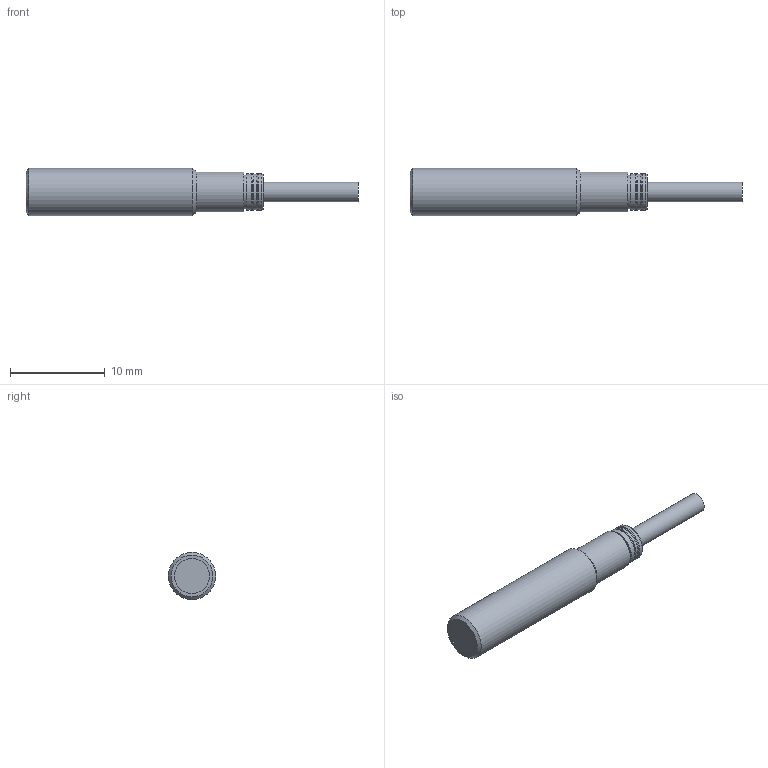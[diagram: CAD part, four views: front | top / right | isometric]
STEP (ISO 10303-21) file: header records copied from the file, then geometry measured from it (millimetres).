
FILE_DESCRIPTION(/* description */ ('STEP AP203'),/* implementation_level */ '2;1');
FILE_NAME(/* name */ 'IY5066',/* time_stamp */ '2024-12-13T10:17:41+01:00',/* author */ ('License CC BY-ND 4.0'),/* organization */ ('CADENAS'),/* preprocessor_version */ 'ST-DEVELOPER v19.3',/* originating_system */ 'PARTsolutions',/* authorisation */ ' ');
FILE_SCHEMA (('CONFIG_CONTROL_DESIGN'));
Length unit declared in the file: millimetre
Products named in the file (1): IY5066
Bounding box: 35.08 x 5 x 5 mm (x, y, z)
Volume: 478.4 mm3; surface area: 479.9 mm2
Topology: 1 solids, 1 shells, 22 faces, 37 edges, 21 vertices
Faces by surface type: cylinder 8, plane 6, cone 4, torus 4
Full cylindrical faces by diameter (mm): 2.1 x1, 3.55 x1, 3.7 x1, 3.8 x1, 3.9 x2, 4.2 x1, 5 x1
Entity records: 464 total; most frequent: DIRECTION 88, CARTESIAN_POINT 65, AXIS2_PLACEMENT_3D 44, ORIENTED_EDGE 42, EDGE_LOOP 42, FACE_BOUND 42, ADVANCED_FACE 22, EDGE_CURVE 21
